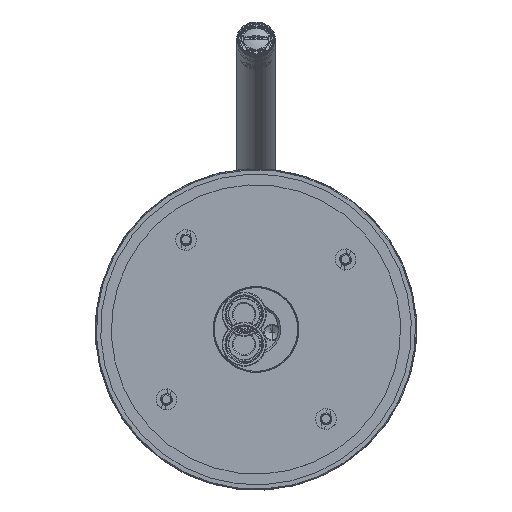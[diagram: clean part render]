
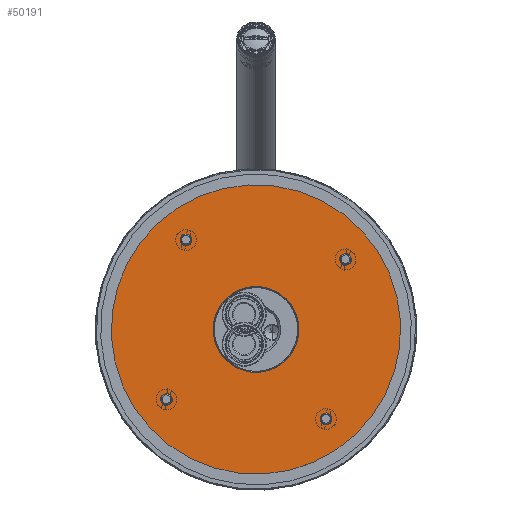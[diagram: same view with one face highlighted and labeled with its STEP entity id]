
A CAD part, top view. The second image highlights one B-rep face of the part: STEP entity #50191.
In plain terms, the highlighted planar face has unit normal (0, 0, 1) as drawn and (0, 0, -1) by its records, which use the part's own axes.
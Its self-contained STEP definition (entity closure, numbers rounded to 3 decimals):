
#534 = DIRECTION ( 'NONE',  ( 1., 0., 0. ) ) ;
#717 = VERTEX_POINT ( 'NONE', #28411 ) ;
#736 = CARTESIAN_POINT ( 'NONE',  ( -37.5, 37.5, 0. ) ) ;
#1042 = FACE_BOUND ( 'NONE', #41174, .T. ) ;
#1538 = DIRECTION ( 'NONE',  ( 0., 0., 1. ) ) ;
#1658 = VERTEX_POINT ( 'NONE', #11408 ) ;
#2109 = CIRCLE ( 'NONE', #6210, 2.75 ) ;
#2258 = EDGE_CURVE ( 'NONE', #1658, #9438, #44331, .T. ) ;
#2666 = ORIENTED_EDGE ( 'NONE', *, *, #27344, .T. ) ;
#3330 = CIRCLE ( 'NONE', #23000, 67.5 ) ;
#3527 = DIRECTION ( 'NONE',  ( 0., 0., 1. ) ) ;
#3919 = DIRECTION ( 'NONE',  ( 1., 0., 0. ) ) ;
#4422 = DIRECTION ( 'NONE',  ( 0., 0., 1. ) ) ;
#4502 = ORIENTED_EDGE ( 'NONE', *, *, #21621, .T. ) ;
#5153 = CIRCLE ( 'NONE', #37949, 2.75 ) ;
#5401 = EDGE_LOOP ( 'NONE', ( #4502, #49388 ) ) ;
#5708 = AXIS2_PLACEMENT_3D ( 'NONE', #736, #32047, #44361 ) ;
#5734 = DIRECTION ( 'NONE',  ( -1., 0., 0. ) ) ;
#5976 = DIRECTION ( 'NONE',  ( 0., 0., -1. ) ) ;
#6154 = CARTESIAN_POINT ( 'NONE',  ( 40.25, -37.5, 0. ) ) ;
#6210 = AXIS2_PLACEMENT_3D ( 'NONE', #20076, #4422, #3919 ) ;
#6481 = CARTESIAN_POINT ( 'NONE',  ( -20., 0., 0. ) ) ;
#7330 = DIRECTION ( 'NONE',  ( 1., 0., 0. ) ) ;
#7554 = VERTEX_POINT ( 'NONE', #12355 ) ;
#7793 = CARTESIAN_POINT ( 'NONE',  ( 34.75, 37.5, 0. ) ) ;
#8271 = CARTESIAN_POINT ( 'NONE',  ( 37.5, 37.5, 0. ) ) ;
#8483 = FACE_BOUND ( 'NONE', #35628, .T. ) ;
#8726 = VERTEX_POINT ( 'NONE', #6154 ) ;
#8737 = CARTESIAN_POINT ( 'NONE',  ( 0., 0., 0. ) ) ;
#8761 = CARTESIAN_POINT ( 'NONE',  ( -34.75, -37.5, 0. ) ) ;
#8994 = FACE_BOUND ( 'NONE', #43371, .T. ) ;
#9240 = CARTESIAN_POINT ( 'NONE',  ( 0., 0., 0. ) ) ;
#9438 = VERTEX_POINT ( 'NONE', #29145 ) ;
#11132 = EDGE_CURVE ( 'NONE', #30792, #39864, #2109, .T. ) ;
#11301 = DIRECTION ( 'NONE',  ( 1., 0., 0. ) ) ;
#11408 = CARTESIAN_POINT ( 'NONE',  ( 67.5, 0., 0. ) ) ;
#11542 = ORIENTED_EDGE ( 'NONE', *, *, #23518, .T. ) ;
#12081 = DIRECTION ( 'NONE',  ( 0., 0., 1. ) ) ;
#12355 = CARTESIAN_POINT ( 'NONE',  ( -40.25, -37.5, 0. ) ) ;
#13088 = FACE_BOUND ( 'NONE', #5401, .T. ) ;
#13596 = EDGE_CURVE ( 'NONE', #48752, #29750, #43433, .T. ) ;
#14682 = AXIS2_PLACEMENT_3D ( 'NONE', #37449, #40794, #41298 ) ;
#15568 = DIRECTION ( 'NONE',  ( 1., 0., 0. ) ) ;
#19200 = EDGE_CURVE ( 'NONE', #9438, #1658, #3330, .T. ) ;
#19350 = CARTESIAN_POINT ( 'NONE',  ( -34.75, 37.5, 0. ) ) ;
#20076 = CARTESIAN_POINT ( 'NONE',  ( 37.5, 37.5, 0. ) ) ;
#20552 = PLANE ( 'NONE',  #36713 ) ;
#20719 = VERTEX_POINT ( 'NONE', #8761 ) ;
#20824 = AXIS2_PLACEMENT_3D ( 'NONE', #26692, #50333, #11301 ) ;
#21621 = EDGE_CURVE ( 'NONE', #8726, #30686, #5153, .T. ) ;
#22996 = EDGE_LOOP ( 'NONE', ( #45597, #28339 ) ) ;
#23000 = AXIS2_PLACEMENT_3D ( 'NONE', #29338, #5976, #5734 ) ;
#23518 = EDGE_CURVE ( 'NONE', #39864, #30792, #46153, .T. ) ;
#23535 = CARTESIAN_POINT ( 'NONE',  ( 40.25, 37.5, 0. ) ) ;
#24529 = CARTESIAN_POINT ( 'NONE',  ( 34.75, -37.5, 0. ) ) ;
#24580 = CIRCLE ( 'NONE', #41798, 20. ) ;
#26692 = CARTESIAN_POINT ( 'NONE',  ( -37.5, 37.5, 0. ) ) ;
#27344 = EDGE_CURVE ( 'NONE', #20719, #7554, #30002, .T. ) ;
#27504 = CIRCLE ( 'NONE', #43913, 2.75 ) ;
#28339 = ORIENTED_EDGE ( 'NONE', *, *, #43482, .T. ) ;
#28411 = CARTESIAN_POINT ( 'NONE',  ( 20., 0., 0. ) ) ;
#28749 = AXIS2_PLACEMENT_3D ( 'NONE', #9240, #37715, #40551 ) ;
#29145 = CARTESIAN_POINT ( 'NONE',  ( -67.5, 0., 0. ) ) ;
#29338 = CARTESIAN_POINT ( 'NONE',  ( 0., 0., 0. ) ) ;
#29750 = VERTEX_POINT ( 'NONE', #19350 ) ;
#30002 = CIRCLE ( 'NONE', #49694, 2.75 ) ;
#30379 = ORIENTED_EDGE ( 'NONE', *, *, #13596, .T. ) ;
#30686 = VERTEX_POINT ( 'NONE', #24529 ) ;
#30792 = VERTEX_POINT ( 'NONE', #7793 ) ;
#31366 = AXIS2_PLACEMENT_3D ( 'NONE', #8271, #47046, #43192 ) ;
#32047 = DIRECTION ( 'NONE',  ( 0., 0., 1. ) ) ;
#32240 = AXIS2_PLACEMENT_3D ( 'NONE', #34789, #35799, #35556 ) ;
#32352 = DIRECTION ( 'NONE',  ( 1., 0., 0. ) ) ;
#32688 = EDGE_CURVE ( 'NONE', #7554, #20719, #42576, .T. ) ;
#33186 = EDGE_CURVE ( 'NONE', #35598, #717, #24580, .T. ) ;
#34789 = CARTESIAN_POINT ( 'NONE',  ( 0., 0., 0. ) ) ;
#34842 = DIRECTION ( 'NONE',  ( 1., 0., 0. ) ) ;
#35200 = ORIENTED_EDGE ( 'NONE', *, *, #19200, .T. ) ;
#35439 = CARTESIAN_POINT ( 'NONE',  ( 37.5, -37.5, 0. ) ) ;
#35556 = DIRECTION ( 'NONE',  ( 1., 0., 0. ) ) ;
#35598 = VERTEX_POINT ( 'NONE', #6481 ) ;
#35628 = EDGE_LOOP ( 'NONE', ( #11542, #38673 ) ) ;
#35708 = EDGE_LOOP ( 'NONE', ( #35200, #47699 ) ) ;
#35799 = DIRECTION ( 'NONE',  ( 0., 0., 1. ) ) ;
#35855 = CARTESIAN_POINT ( 'NONE',  ( 37.5, -37.5, 0. ) ) ;
#36449 = FACE_OUTER_BOUND ( 'NONE', #35708, .T. ) ;
#36713 = AXIS2_PLACEMENT_3D ( 'NONE', #8737, #1538, #32352 ) ;
#37130 = EDGE_CURVE ( 'NONE', #29750, #48752, #42958, .T. ) ;
#37449 = CARTESIAN_POINT ( 'NONE',  ( -37.5, -37.5, 0. ) ) ;
#37715 = DIRECTION ( 'NONE',  ( 0., 0., -1. ) ) ;
#37949 = AXIS2_PLACEMENT_3D ( 'NONE', #35855, #3527, #34842 ) ;
#38299 = EDGE_CURVE ( 'NONE', #30686, #8726, #27504, .T. ) ;
#38407 = DIRECTION ( 'NONE',  ( 0., 0., 1. ) ) ;
#38673 = ORIENTED_EDGE ( 'NONE', *, *, #11132, .T. ) ;
#39864 = VERTEX_POINT ( 'NONE', #23535 ) ;
#40551 = DIRECTION ( 'NONE',  ( -1., 0., 0. ) ) ;
#40794 = DIRECTION ( 'NONE',  ( 0., 0., 1. ) ) ;
#41174 = EDGE_LOOP ( 'NONE', ( #44334, #30379 ) ) ;
#41298 = DIRECTION ( 'NONE',  ( 1., 0., 0. ) ) ;
#41740 = CARTESIAN_POINT ( 'NONE',  ( -37.5, -37.5, 0. ) ) ;
#41798 = AXIS2_PLACEMENT_3D ( 'NONE', #50730, #49709, #15568 ) ;
#42576 = CIRCLE ( 'NONE', #14682, 2.75 ) ;
#42958 = CIRCLE ( 'NONE', #20824, 2.75 ) ;
#43192 = DIRECTION ( 'NONE',  ( 1., 0., 0. ) ) ;
#43371 = EDGE_LOOP ( 'NONE', ( #2666, #48285 ) ) ;
#43433 = CIRCLE ( 'NONE', #5708, 2.75 ) ;
#43482 = EDGE_CURVE ( 'NONE', #717, #35598, #44542, .T. ) ;
#43913 = AXIS2_PLACEMENT_3D ( 'NONE', #35439, #12081, #534 ) ;
#44331 = CIRCLE ( 'NONE', #28749, 67.5 ) ;
#44334 = ORIENTED_EDGE ( 'NONE', *, *, #37130, .T. ) ;
#44361 = DIRECTION ( 'NONE',  ( 1., 0., 0. ) ) ;
#44416 = FACE_BOUND ( 'NONE', #22996, .T. ) ;
#44542 = CIRCLE ( 'NONE', #32240, 20. ) ;
#45524 = CARTESIAN_POINT ( 'NONE',  ( -40.25, 37.5, 0. ) ) ;
#45597 = ORIENTED_EDGE ( 'NONE', *, *, #33186, .T. ) ;
#46153 = CIRCLE ( 'NONE', #31366, 2.75 ) ;
#47046 = DIRECTION ( 'NONE',  ( 0., 0., 1. ) ) ;
#47699 = ORIENTED_EDGE ( 'NONE', *, *, #2258, .T. ) ;
#48285 = ORIENTED_EDGE ( 'NONE', *, *, #32688, .T. ) ;
#48752 = VERTEX_POINT ( 'NONE', #45524 ) ;
#49388 = ORIENTED_EDGE ( 'NONE', *, *, #38299, .T. ) ;
#49694 = AXIS2_PLACEMENT_3D ( 'NONE', #41740, #38407, #7330 ) ;
#49709 = DIRECTION ( 'NONE',  ( 0., 0., 1. ) ) ;
#50191 = ADVANCED_FACE ( 'NONE', ( #8994, #13088, #8483, #1042, #44416, #36449 ), #20552, .F. ) ;
#50333 = DIRECTION ( 'NONE',  ( 0., 0., 1. ) ) ;
#50730 = CARTESIAN_POINT ( 'NONE',  ( 0., 0., 0. ) ) ;
